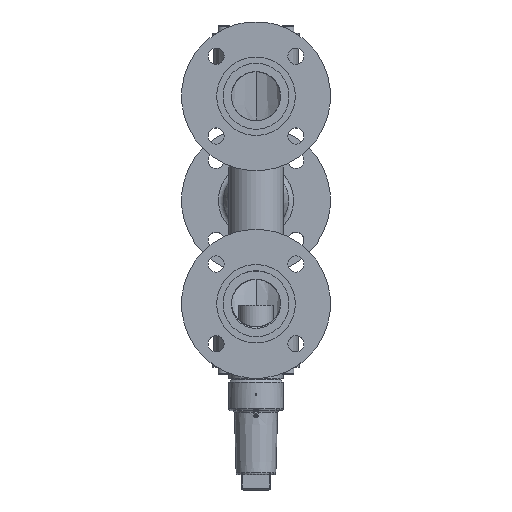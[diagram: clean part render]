
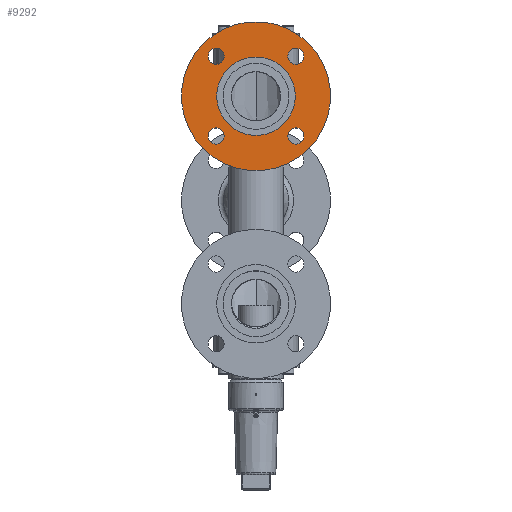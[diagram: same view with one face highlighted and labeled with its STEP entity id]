
A CAD part, top view. The second image highlights one B-rep face of the part: STEP entity #9292.
In plain terms, the highlighted planar face has unit normal (0, 0, 1) as drawn and (0, -1, 0) by its records, which use the part's own axes.
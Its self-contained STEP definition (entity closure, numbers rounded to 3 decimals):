
#16415 = EDGE_CURVE ( 'NONE', #21286, #20860, #8853, .T. ) ;
#38 = EDGE_CURVE ( 'NONE', #14240, #14677, #29709, .T. ) ;
#115 = EDGE_LOOP ( 'NONE', ( #24475, #33692 ) ) ;
#33199 = EDGE_LOOP ( 'NONE', ( #7620, #6628 ) ) ;
#33692 = ORIENTED_EDGE ( 'NONE', *, *, #25864, .T. ) ;
#1092 = EDGE_CURVE ( 'NONE', #21246, #6879, #31205, .T. ) ;
#1098 = CARTESIAN_POINT ( 'NONE',  ( 71.5, 4., 0. ) ) ;
#1254 = CIRCLE ( 'NONE', #1272, 9. ) ;
#1272 = AXIS2_PLACEMENT_3D ( 'NONE', #1273, #1274, #1275 ) ;
#1273 = CARTESIAN_POINT ( 'NONE',  ( 62.5, 4., 0. ) ) ;
#1274 = DIRECTION ( 'NONE',  ( 0., 1., 0. ) ) ;
#1275 = DIRECTION ( 'NONE',  ( 1., 0., 0. ) ) ;
#1809 = ORIENTED_EDGE ( 'NONE', *, *, #1092, .F. ) ;
#2733 = CARTESIAN_POINT ( 'NONE',  ( 43.5, 4., 0. ) ) ;
#2802 = ORIENTED_EDGE ( 'NONE', *, *, #7302, .F. ) ;
#19210 = CIRCLE ( 'NONE', #19211, 9. ) ;
#19211 = AXIS2_PLACEMENT_3D ( 'NONE', #19212, #19213, #19214 ) ;
#19212 = CARTESIAN_POINT ( 'NONE',  ( 62.5, 4., 0. ) ) ;
#19213 = DIRECTION ( 'NONE',  ( 0., 1., 0. ) ) ;
#19214 = DIRECTION ( 'NONE',  ( 1., 0., 0. ) ) ;
#2886 = CIRCLE ( 'NONE', #2887, 43.5 ) ;
#2887 = AXIS2_PLACEMENT_3D ( 'NONE', #2888, #2889, #2890 ) ;
#2888 = CARTESIAN_POINT ( 'NONE',  ( 0., 4., 0. ) ) ;
#2889 = DIRECTION ( 'NONE',  ( 0., -1., 0. ) ) ;
#2890 = DIRECTION ( 'NONE',  ( 1., 0., 0. ) ) ;
#19535 = EDGE_CURVE ( 'NONE', #12716, #4158, #19210, .T. ) ;
#3155 = CARTESIAN_POINT ( 'NONE',  ( 53.5, 4., 0. ) ) ;
#3804 = EDGE_LOOP ( 'NONE', ( #2802, #1809 ) ) ;
#3901 = CIRCLE ( 'NONE', #3922, 9. ) ;
#3922 = AXIS2_PLACEMENT_3D ( 'NONE', #3923, #3924, #3925 ) ;
#3923 = CARTESIAN_POINT ( 'NONE',  ( -62.5, 4., 0. ) ) ;
#3924 = DIRECTION ( 'NONE',  ( 0., 1., 0. ) ) ;
#3925 = DIRECTION ( 'NONE',  ( 1., 0., 0. ) ) ;
#4158 = VERTEX_POINT ( 'NONE', #1098 ) ;
#4330 = ORIENTED_EDGE ( 'NONE', *, *, #16415, .T. ) ;
#20860 = VERTEX_POINT ( 'NONE', #21168 ) ;
#4515 = CIRCLE ( 'NONE', #4516, 9. ) ;
#4516 = AXIS2_PLACEMENT_3D ( 'NONE', #4517, #4518, #4519 ) ;
#4517 = CARTESIAN_POINT ( 'NONE',  ( 0., 4., -62.5 ) ) ;
#4518 = DIRECTION ( 'NONE',  ( 0., 1., 0. ) ) ;
#4519 = DIRECTION ( 'NONE',  ( 1., 0., 0. ) ) ;
#4578 = EDGE_CURVE ( 'NONE', #4158, #12716, #1254, .T. ) ;
#4592 = FACE_BOUND ( 'NONE', #8833, .T. ) ;
#4593 = FACE_BOUND ( 'NONE', #6382, .T. ) ;
#4594 = FACE_BOUND ( 'NONE', #3804, .T. ) ;
#4617 = FACE_BOUND ( 'NONE', #115, .T. ) ;
#4618 = FACE_BOUND ( 'NONE', #30877, .T. ) ;
#4619 = FACE_OUTER_BOUND ( 'NONE', #33199, .T. ) ;
#4620 = PLANE ( 'NONE',  #4621 ) ;
#4621 = AXIS2_PLACEMENT_3D ( 'NONE', #4622, #4623, #4624 ) ;
#4622 = CARTESIAN_POINT ( 'NONE',  ( 0., 4., 0. ) ) ;
#4623 = DIRECTION ( 'NONE',  ( 0., -1., 0. ) ) ;
#4624 = DIRECTION ( 'NONE',  ( 1., 0., 0. ) ) ;
#21168 = CARTESIAN_POINT ( 'NONE',  ( -71.5, 4., 0. ) ) ;
#21246 = VERTEX_POINT ( 'NONE', #21276 ) ;
#21276 = CARTESIAN_POINT ( 'NONE',  ( -43.5, 4., 0. ) ) ;
#21278 = CARTESIAN_POINT ( 'NONE',  ( -53.5, 4., 0. ) ) ;
#21286 = VERTEX_POINT ( 'NONE', #21278 ) ;
#21336 = CARTESIAN_POINT ( 'NONE',  ( -82.5, 4., 0. ) ) ;
#21353 = VERTEX_POINT ( 'NONE', #21336 ) ;
#21408 = CARTESIAN_POINT ( 'NONE',  ( 82.5, 4., 0. ) ) ;
#21604 = VERTEX_POINT ( 'NONE', #21408 ) ;
#5321 = ORIENTED_EDGE ( 'NONE', *, *, #13276, .T. ) ;
#6382 = EDGE_LOOP ( 'NONE', ( #5321, #4330 ) ) ;
#6628 = ORIENTED_EDGE ( 'NONE', *, *, #24334, .T. ) ;
#6753 = CARTESIAN_POINT ( 'NONE',  ( -9., 4., 62.5 ) ) ;
#6772 = ORIENTED_EDGE ( 'NONE', *, *, #15101, .T. ) ;
#6844 = ORIENTED_EDGE ( 'NONE', *, *, #4578, .T. ) ;
#6879 = VERTEX_POINT ( 'NONE', #2733 ) ;
#7184 = CARTESIAN_POINT ( 'NONE',  ( 9., 4., 62.5 ) ) ;
#7302 = EDGE_CURVE ( 'NONE', #6879, #21246, #2886, .T. ) ;
#7473 = CIRCLE ( 'NONE', #7474, 9. ) ;
#7474 = AXIS2_PLACEMENT_3D ( 'NONE', #7475, #7476, #7495 ) ;
#7475 = CARTESIAN_POINT ( 'NONE',  ( 0., 4., 62.5 ) ) ;
#7476 = DIRECTION ( 'NONE',  ( 0., 1., 0. ) ) ;
#7495 = DIRECTION ( 'NONE',  ( 1., 0., 0. ) ) ;
#7620 = ORIENTED_EDGE ( 'NONE', *, *, #28383, .T. ) ;
#7833 = ORIENTED_EDGE ( 'NONE', *, *, #19535, .T. ) ;
#24334 = EDGE_CURVE ( 'NONE', #21604, #21353, #24387, .T. ) ;
#24387 = CIRCLE ( 'NONE', #24388, 82.5 ) ;
#24388 = AXIS2_PLACEMENT_3D ( 'NONE', #24389, #24390, #24391 ) ;
#24389 = CARTESIAN_POINT ( 'NONE',  ( 0., 4., 0. ) ) ;
#24390 = DIRECTION ( 'NONE',  ( 0., -1., 0. ) ) ;
#24391 = DIRECTION ( 'NONE',  ( 1., 0., 0. ) ) ;
#24475 = ORIENTED_EDGE ( 'NONE', *, *, #9152, .T. ) ;
#25014 = VERTEX_POINT ( 'NONE', #25750 ) ;
#8833 = EDGE_LOOP ( 'NONE', ( #7833, #6844 ) ) ;
#8853 = CIRCLE ( 'NONE', #8854, 9. ) ;
#8854 = AXIS2_PLACEMENT_3D ( 'NONE', #8855, #8856, #8857 ) ;
#8855 = CARTESIAN_POINT ( 'NONE',  ( -62.5, 4., 0. ) ) ;
#8856 = DIRECTION ( 'NONE',  ( 0., 1., 0. ) ) ;
#8857 = DIRECTION ( 'NONE',  ( 1., 0., 0. ) ) ;
#25441 = VERTEX_POINT ( 'NONE', #25961 ) ;
#9152 = EDGE_CURVE ( 'NONE', #25014, #25441, #4515, .T. ) ;
#9292 = ADVANCED_FACE ( 'NONE', ( #4592, #4593, #4594, #4617, #4618, #4619 ), #4620, .T. ) ;
#25750 = CARTESIAN_POINT ( 'NONE',  ( -9., 4., -62.5 ) ) ;
#25864 = EDGE_CURVE ( 'NONE', #25441, #25014, #26108, .T. ) ;
#25961 = CARTESIAN_POINT ( 'NONE',  ( 9., 4., -62.5 ) ) ;
#26108 = CIRCLE ( 'NONE', #26109, 9. ) ;
#26109 = AXIS2_PLACEMENT_3D ( 'NONE', #26129, #26130, #26131 ) ;
#26129 = CARTESIAN_POINT ( 'NONE',  ( 0., 4., -62.5 ) ) ;
#26130 = DIRECTION ( 'NONE',  ( 0., 1., 0. ) ) ;
#26131 = DIRECTION ( 'NONE',  ( 1., 0., 0. ) ) ;
#28383 = EDGE_CURVE ( 'NONE', #21353, #21604, #13000, .T. ) ;
#12716 = VERTEX_POINT ( 'NONE', #3155 ) ;
#13000 = CIRCLE ( 'NONE', #13001, 82.5 ) ;
#13001 = AXIS2_PLACEMENT_3D ( 'NONE', #13002, #13003, #13004 ) ;
#13002 = CARTESIAN_POINT ( 'NONE',  ( 0., 4., 0. ) ) ;
#13003 = DIRECTION ( 'NONE',  ( 0., -1., 0. ) ) ;
#13004 = DIRECTION ( 'NONE',  ( 1., 0., 0. ) ) ;
#13276 = EDGE_CURVE ( 'NONE', #20860, #21286, #3901, .T. ) ;
#29709 = CIRCLE ( 'NONE', #29710, 9. ) ;
#29710 = AXIS2_PLACEMENT_3D ( 'NONE', #29711, #29712, #29713 ) ;
#29711 = CARTESIAN_POINT ( 'NONE',  ( 0., 4., 62.5 ) ) ;
#29712 = DIRECTION ( 'NONE',  ( 0., 1., 0. ) ) ;
#29713 = DIRECTION ( 'NONE',  ( 1., 0., 0. ) ) ;
#30190 = ORIENTED_EDGE ( 'NONE', *, *, #38, .T. ) ;
#14240 = VERTEX_POINT ( 'NONE', #6753 ) ;
#30877 = EDGE_LOOP ( 'NONE', ( #30190, #6772 ) ) ;
#14677 = VERTEX_POINT ( 'NONE', #7184 ) ;
#31205 = CIRCLE ( 'NONE', #31206, 43.5 ) ;
#31206 = AXIS2_PLACEMENT_3D ( 'NONE', #31207, #31208, #31209 ) ;
#31207 = CARTESIAN_POINT ( 'NONE',  ( 0., 4., 0. ) ) ;
#31208 = DIRECTION ( 'NONE',  ( 0., -1., 0. ) ) ;
#31209 = DIRECTION ( 'NONE',  ( 1., 0., 0. ) ) ;
#15101 = EDGE_CURVE ( 'NONE', #14677, #14240, #7473, .T. ) ;
